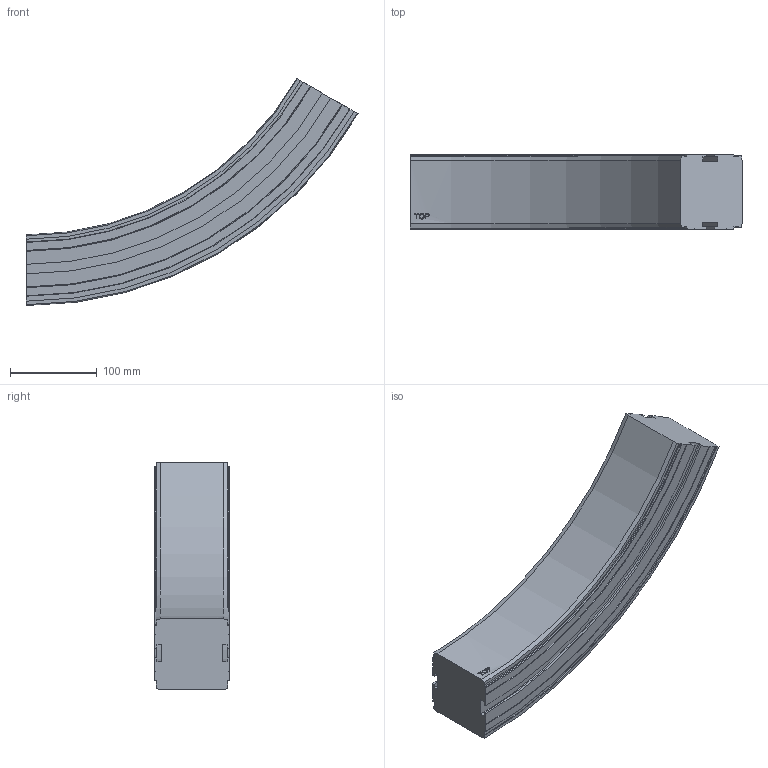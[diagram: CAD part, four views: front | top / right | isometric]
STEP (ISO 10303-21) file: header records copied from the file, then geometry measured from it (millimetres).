
FILE_DESCRIPTION((''),'2;1');
FILE_NAME('C:\Vault Klient\Projekt\Koncept konstruktion\Serie 830 Balk\830-5630_UP.stp','2009-11-27T10:52:59',('Mathias'),(''),'Autodesk Inventor 2010','Autodesk Inventor 2010','');
FILE_SCHEMA(('AUTOMOTIVE_DESIGN { 1 0 10303 214 1 1 1 1 }'));
Length unit declared in the file: millimetre
Products named in the file (1): 830-5630_UP
Bounding box: 382.78 x 86 x 261.75 mm (x, y, z)
Volume: 2792882.7 mm3; surface area: 184885.4 mm2
Topology: 1 solids, 1 shells, 93 faces, 258 edges, 172 vertices
Faces by surface type: plane 40, cylinder 23, bspline 14, cone 12, torus 4
Entity records: 3377 total; most frequent: CARTESIAN_POINT 942, ORIENTED_EDGE 516, DIRECTION 472, EDGE_CURVE 258, VERTEX_POINT 172, AXIS2_PLACEMENT_3D 162, VECTOR 148, LINE 148
